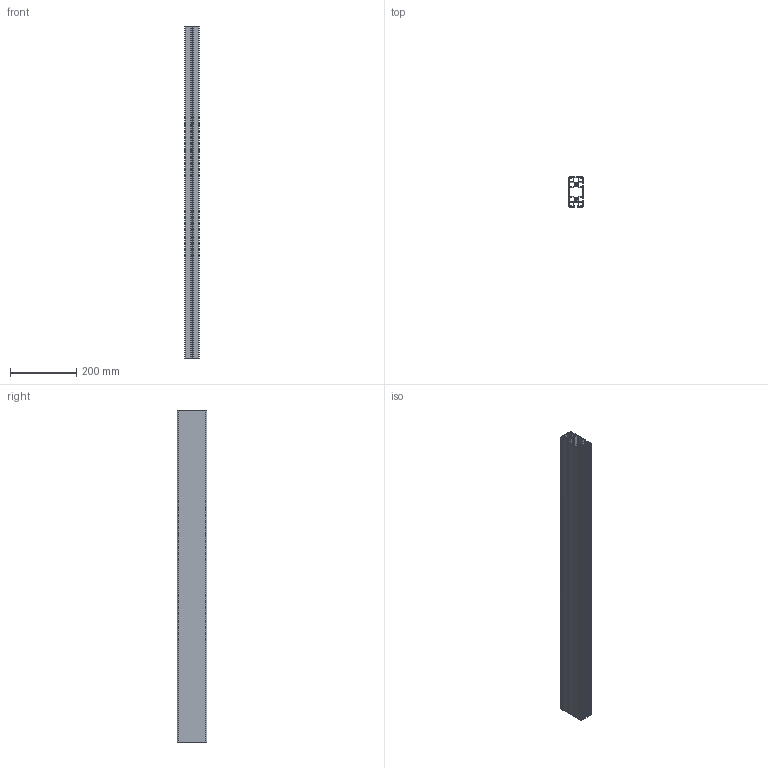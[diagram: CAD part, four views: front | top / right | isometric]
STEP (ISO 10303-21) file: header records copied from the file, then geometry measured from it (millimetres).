
FILE_DESCRIPTION (( 'STEP AP214' ), '1' );
FILE_NAME ('SA02006L.step', '2024-12-03T16:28:49', ( '' ), ( '' ), 'SwSTEP 2.0', 'SolidWorks 2023', '' );
FILE_SCHEMA (( 'AUTOMOTIVE_DESIGN' ));
Length unit declared in the file: millimetre
Products named in the file (1): SA02006L
Bounding box: 45 x 90 x 1000 mm (x, y, z)
Volume: 869961.5 mm3; surface area: 956008.6 mm2
Topology: 1 solids, 1 shells, 217 faces, 645 edges, 430 vertices
Faces by surface type: plane 160, cylinder 57
Full cylindrical faces by diameter (mm): 7.45 x2
Entity records: 7286 total; most frequent: CARTESIAN_POINT 1291, ORIENTED_EDGE 1286, DIRECTION 1193, EDGE_CURVE 643, LINE 529, VECTOR 529, VERTEX_POINT 430, AXIS2_PLACEMENT_3D 332
